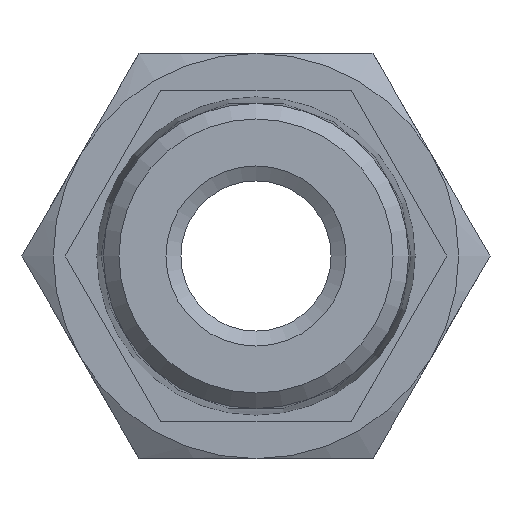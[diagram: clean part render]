
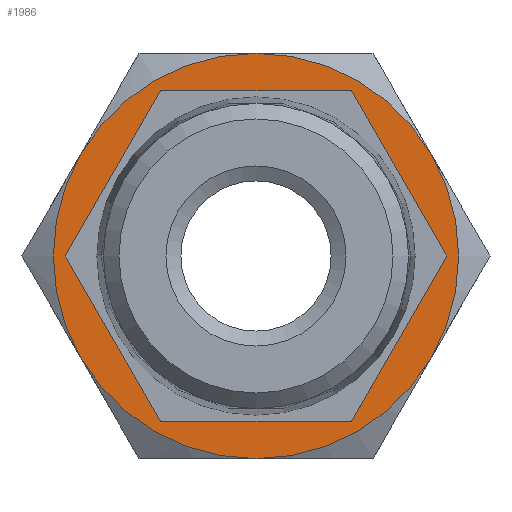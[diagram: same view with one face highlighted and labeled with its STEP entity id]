
A CAD part, front view. The second image highlights one B-rep face of the part: STEP entity #1986.
In plain terms, the highlighted planar face has unit normal (0, -1, 0).
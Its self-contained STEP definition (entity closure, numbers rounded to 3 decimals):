
#98=CARTESIAN_POINT('',(-11.691,31.19,6.75));
#99=VERTEX_POINT('',#98);
#258=CARTESIAN_POINT('',(-11.691,31.19,-6.75));
#259=VERTEX_POINT('',#258);
#391=CARTESIAN_POINT('',(0.,31.19,13.5));
#392=VERTEX_POINT('',#391);
#622=CARTESIAN_POINT('',(0.,31.19,-13.5));
#623=VERTEX_POINT('',#622);
#764=CARTESIAN_POINT('',(11.691,31.19,-6.75));
#765=VERTEX_POINT('',#764);
#888=CARTESIAN_POINT('',(11.691,31.19,6.75));
#889=VERTEX_POINT('',#888);
#926=CARTESIAN_POINT('',(0.,31.19,0.0));
#927=DIRECTION('',(0.0,-1.0,0.0));
#928=DIRECTION('',(1.0,0.0,0.0));
#929=AXIS2_PLACEMENT_3D('',#926,#927,#928);
#930=CIRCLE('',#929,13.5);
#931=EDGE_CURVE('',#889,#392,#930,.T.);
#944=CARTESIAN_POINT('',(0.,31.19,0.0));
#945=DIRECTION('',(0.0,-1.0,0.0));
#946=DIRECTION('',(1.0,0.0,0.0));
#947=AXIS2_PLACEMENT_3D('',#944,#945,#946);
#948=CIRCLE('',#947,13.5);
#949=EDGE_CURVE('',#765,#889,#948,.T.);
#960=CARTESIAN_POINT('',(0.,31.19,0.0));
#961=DIRECTION('',(0.0,-1.0,0.0));
#962=DIRECTION('',(1.0,0.0,0.0));
#963=AXIS2_PLACEMENT_3D('',#960,#961,#962);
#964=CIRCLE('',#963,13.5);
#965=EDGE_CURVE('',#392,#99,#964,.T.);
#978=CARTESIAN_POINT('',(0.,31.19,0.0));
#979=DIRECTION('',(0.0,-1.0,0.0));
#980=DIRECTION('',(1.0,0.0,0.0));
#981=AXIS2_PLACEMENT_3D('',#978,#979,#980);
#982=CIRCLE('',#981,13.5);
#983=EDGE_CURVE('',#623,#765,#982,.T.);
#995=CARTESIAN_POINT('',(0.,31.19,0.0));
#996=DIRECTION('',(0.0,-1.0,0.0));
#997=DIRECTION('',(1.0,0.0,0.0));
#998=AXIS2_PLACEMENT_3D('',#995,#996,#997);
#999=CIRCLE('',#998,13.5);
#1000=EDGE_CURVE('',#259,#623,#999,.T.);
#1951=CARTESIAN_POINT('',(0.,31.19,0.0));
#1952=DIRECTION('',(0.0,-1.0,0.0));
#1953=DIRECTION('',(1.0,0.0,0.0));
#1954=AXIS2_PLACEMENT_3D('',#1951,#1952,#1953);
#1955=CIRCLE('',#1954,13.5);
#1956=EDGE_CURVE('',#99,#259,#1955,.T.);
#1962=CARTESIAN_POINT('',(12.25,31.19,0.0));
#1963=DIRECTION('',(0.0,-1.0,0.0));
#1964=DIRECTION('',(0.0,0.0,-1.0));
#1965=AXIS2_PLACEMENT_3D('',#1962,#1963,#1964);
#1966=PLANE('',#1965);
#1967=ORIENTED_EDGE('',*,*,#949,.T.);
#1968=ORIENTED_EDGE('',*,*,#931,.T.);
#1969=ORIENTED_EDGE('',*,*,#965,.T.);
#1970=ORIENTED_EDGE('',*,*,#1956,.T.);
#1971=ORIENTED_EDGE('',*,*,#1000,.T.);
#1972=ORIENTED_EDGE('',*,*,#983,.T.);
#1973=EDGE_LOOP('',(#1967,#1968,#1969,#1970,#1971,#1972));
#1974=FACE_OUTER_BOUND('',#1973,.T.);
#1975=CARTESIAN_POINT('',(11.,31.19,0.0));
#1976=VERTEX_POINT('',#1975);
#1977=CARTESIAN_POINT('',(0.,31.19,0.0));
#1978=DIRECTION('',(0.0,-1.0,0.0));
#1979=DIRECTION('',(1.0,0.0,0.0));
#1980=AXIS2_PLACEMENT_3D('',#1977,#1978,#1979);
#1981=CIRCLE('',#1980,11.);
#1982=EDGE_CURVE('',#1976,#1976,#1981,.T.);
#1983=ORIENTED_EDGE('',*,*,#1982,.F.);
#1984=EDGE_LOOP('',(#1983));
#1985=FACE_BOUND('',#1984,.T.);
#1986=ADVANCED_FACE('',(#1974,#1985),#1966,.T.);
